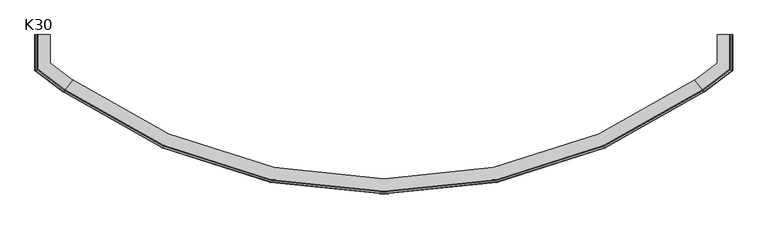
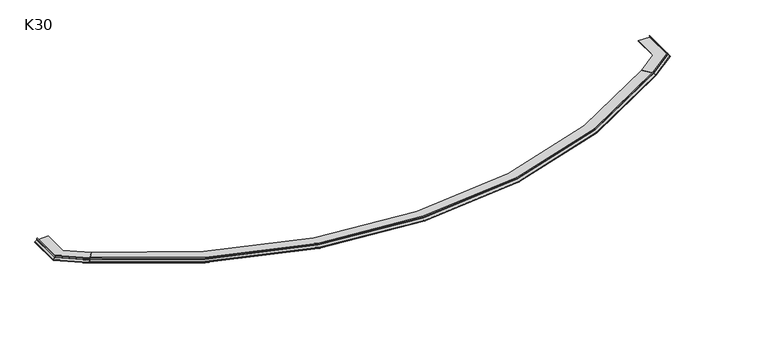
"""IFC4 building model written with IfcOpenShell, lengths in millimetres: proxy geometry, K30 Profil okapowy łukowy : K30."""

from ifc_helpers import new_model, si_unit, point, frame, origin, place, context, project, spatial, polyline, circle_curve, ellipse_curve, trimmed, source, transform, mapped, element, save
from ifc_brep_helpers import plane_surface, cylinder_surface, revolved_surface, advanced_brep


def k30_af906b5c(model_context):
    return source(origin(), model_context, "Body", "AdvancedBrep", [
        advanced_brep(
        [(4765.2922142, -77.6076501, -13.5016844), (4765.2922142, -77.6076501, -15.1970829), (4817.5264909, -146.7295213, -15.1970829), (4817.5264909, -146.7295213, -19.1975491), (4818.1293892, -147.5273394, -19.1975491), (4818.1293892, -147.5273394, -15.1975491), (4822.219781, -152.9401748, -15.1975491), (4830.3709696, -163.7266821, -25.3819245), (4830.8512669, -164.3622619, -26.9794046), (4830.8512669, -164.3622619, -30.413733), (4831.8761939, -165.7185527, -30.413733), (4831.8761939, -165.7185527, -26.6303216), (4831.1557479, -164.7651831, -24.2341015), (4822.4949207, -153.3042685, -13.4129661), (4822.2335872, -152.9584446, -12.5354797), (4822.2335872, -152.9584446, -2.7535764), (4820.545471, -150.7245522, 0.0), (4820.545471, -150.7245522, -1.79984), (4821.1438802, -151.51643, -2.7625682), (4821.1438802, -151.51643, -13.5016844), (4928.0147588, 249.8754071, -13.5016844), (5020.6533065, 250.0011167, -13.5016844), (5020.6533065, 250.0011167, -2.7625682), (5019.6607532, 249.9997698, -1.79984), (5019.6607532, 249.9997698, 0.0), (5022.4603658, 250.0035689, -2.7535764), (5022.4607526, 250.0035694, -12.5354797), (5022.8942143, 250.0041576, -13.4129661), (5037.2595236, 250.0236512, -24.2341015), (5038.4544936, 250.0252728, -26.6303216), (5038.4544936, 250.0252728, -30.413733), (5036.7544952, 250.0229659, -30.413733), (5036.7544952, 250.0229659, -26.9794046), (5035.9578485, 250.0218848, -25.3819245), (5022.4378529, 250.0035383, -15.1975491), (5015.6533111, 249.9943318, -15.1975491), (5015.6533111, 249.9943318, -19.1975491), (5014.6533121, 249.9929748, -19.1975491), (5014.6533121, 249.9929748, -15.1970829), (4928.0147588, 249.8754071, -15.1970829), (5020.9932254, -0.493522, -13.5016844), (4928.2920011, 45.5686445, -13.5016844), (5020.9932254, -0.493522, -2.7625682), (5020.0000006, 0.0, -1.79984), (5020.0000006, 0.0, 0.0), (5022.8016611, -1.39192, -2.7535764), (5022.8018944, -1.3922286, -12.5354797), (5023.2356493, -1.6077565, -13.4129661), (5037.6106778, -8.7505419, -24.2341015), (5038.8064563, -9.3447104, -26.6303216), (5038.8064563, -9.3447104, -30.413733), (5037.1053077, -8.4994293, -30.413733), (5037.1053077, -8.4994293, -26.9794046), (5036.308122, -8.103317, -25.3819245), (5022.7789792, -1.3808424, -15.1975491), (5015.9898472, 1.9925988, -15.1975491), (5015.9898472, 1.9925988, -19.1975491), (5014.9891715, 2.489823, -19.1975491), (5014.9891715, 2.489823, -15.1970829), (4928.2920011, 45.5686445, -15.1970829)],
        [
            (0, 1),
            (1, 2),
            (2, 3),
            (3, 4),
            (4, 5),
            (5, 6),
            (6, 7),
            (7, 8, circle_curve(frame((4829.6454705, -162.7666256, -26.9794046), z_axis=(0.7978181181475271, 0.6028982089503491, 0.0), x_axis=(0.3627495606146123, -0.4800282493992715, 0.7987400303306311)), 2.0)),
            (8, 9),
            (9, 10, circle_curve(frame((4831.3637304, -165.0404073, -30.413733), z_axis=(-0.7978181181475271, -0.6028982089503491, 0.0), x_axis=(-0.6028982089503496, 0.7978181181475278, -1.0699937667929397e-12)), 0.85)),
            (10, 11),
            (11, 12, circle_curve(frame((4830.0674993, -163.3250983, -26.6303216), z_axis=(-0.7978181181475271, -0.6028982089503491, 0.0), x_axis=(0.6028982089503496, -0.7978181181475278, 0.0)), 3.0)),
            (12, 13),
            (13, 14, circle_curve(frame((4822.8896988, -153.8266802, -12.5437023), z_axis=(0.7978181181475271, 0.6028982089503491, 0.0), x_axis=(-0.3627495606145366, 0.4800282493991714, -0.7987400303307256)), 1.0882937)),
            (14, 15),
            (15, 16, circle_curve(frame((4820.5729349, -150.7608953, -2.7536853), z_axis=(-0.7978181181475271, -0.6028982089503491, 0.0), x_axis=(0.6028982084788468, -0.7978181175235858, 3.954897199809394e-05)), 2.754062)),
            (16, 17),
            (17, 18, circle_curve(frame((4820.5484441, -150.7284866, -2.7877721), z_axis=(0.7978181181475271, 0.6028982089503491, 0.0), x_axis=(-0.0030094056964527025, 0.003982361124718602, 0.9999875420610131)), 0.9879444)),
            (18, 19),
            (19, 0),
            (20, 21),
            (21, 22),
            (22, 23, circle_curve(frame((5019.6656846, 249.9997765, -2.7877721), z_axis=(0.00135698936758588, -0.9999990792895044, 0.0), x_axis=(-0.004991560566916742, -6.773500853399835e-06, 0.9999875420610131)), 0.9879444)),
            (23, 24),
            (24, 25, circle_curve(frame((5019.7063062, 249.9998316, -2.7536853), z_axis=(-0.0013569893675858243, 0.9999990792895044, 0.0), x_axis=(0.9999990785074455, 0.001356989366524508, 3.954897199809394e-05)), 2.754062)),
            (25, 26),
            (26, 27, circle_curve(frame((5023.5490142, 250.0050462, -12.5437023), z_axis=(0.0013569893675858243, -0.9999990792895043, 0.0), x_axis=(-0.601675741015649, -0.0008164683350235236, -0.7987400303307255)), 1.0882937)),
            (27, 28),
            (28, 29, circle_curve(frame((5035.4544964, 250.0212018, -26.6303216), z_axis=(-0.001356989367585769, 0.9999990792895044, 0.0), x_axis=(0.9999990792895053, 0.0013569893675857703, 0.0)), 3.0)),
            (29, 30),
            (30, 31, circle_curve(frame((5037.6044944, 250.0241193, -30.413733), z_axis=(-0.001356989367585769, 0.9999990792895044, 0.0), x_axis=(-0.9999990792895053, -0.0013569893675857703, -1.0699937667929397e-12)), 0.85)),
            (31, 32),
            (32, 33, circle_curve(frame((5034.754497, 250.0202519, -26.9794046), z_axis=(0.0013569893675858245, -0.9999990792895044, 0.0), x_axis=(0.6016757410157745, 0.0008164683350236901, 0.798740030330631)), 2.0)),
            (33, 34),
            (34, 35),
            (35, 36),
            (36, 37),
            (37, 38),
            (38, 39),
            (39, 20),
            (19, 40),
            (40, 21),
            (20, 41),
            (41, 0),
            (18, 42),
            (42, 40),
            (17, 43),
            (43, 42, ellipse_curve(frame((5020.0049353, -0.002452, -2.7877721), z_axis=(0.44498298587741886, 0.8955390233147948, 0.0), x_axis=(0.8955390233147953, -0.4449829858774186, 0.0)), 1.1039295, 0.9879444)),
            (16, 44),
            (44, 43),
            (15, 45),
            (45, 44, ellipse_curve(frame((5020.0455844, -0.0226501, -2.7536853), z_axis=(-0.4449829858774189, -0.8955390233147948, 0.0), x_axis=(-0.8955390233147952, 0.4449829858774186, 0.0)), 3.07739, 2.754062)),
            (14, 46),
            (46, 45),
            (13, 47),
            (47, 46, ellipse_curve(frame((5023.8908923, -1.9333391, -12.5437023), z_axis=(0.4449829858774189, 0.8955390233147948, 0.0), x_axis=(0.8955390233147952, -0.4449829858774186, 0.0)), 1.2160598, 1.0882937)),
            (12, 48),
            (48, 47),
            (11, 49),
            (49, 48, ellipse_curve(frame((5035.8044293, -7.8530379, -26.6303216), z_axis=(-0.4449829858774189, -0.8955390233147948, 0.0), x_axis=(-0.8955390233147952, 0.4449829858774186, 0.0)), 3.3522012, 3.0)),
            (10, 50),
            (50, 49),
            (9, 51),
            (51, 50, ellipse_curve(frame((5037.955882, -8.9220699, -30.413733), z_axis=(-0.4449829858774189, -0.8955390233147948, 0.0), x_axis=(-0.8955390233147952, 0.4449829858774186, 0.0)), 0.9497903, 0.85)),
            (8, 52),
            (52, 51),
            (7, 53),
            (53, 52, ellipse_curve(frame((5035.1039564, -7.504981, -26.9794046), z_axis=(0.4449829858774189, 0.8955390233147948, 0.0), x_axis=(0.8955390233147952, -0.4449829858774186, 0.0)), 2.2348008, 2.0)),
            (6, 54),
            (54, 53),
            (5, 55),
            (55, 35),
            (34, 54),
            (4, 56),
            (56, 55),
            (3, 57),
            (57, 37),
            (36, 56),
            (2, 58),
            (58, 57),
            (1, 59),
            (59, 39),
            (38, 58),
            (41, 59),
            (42, 22),
            (43, 23),
            (44, 24),
            (45, 25),
            (46, 26),
            (47, 27),
            (48, 28),
            (49, 29),
            (50, 30),
            (51, 31),
            (52, 32),
            (53, 33),
        ],
        [
            plane_surface(frame((4820.545471, -150.7245522, 0.0), z_axis=(-0.7978181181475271, -0.6028982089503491, 0.0), x_axis=(0.0, 0.0, 1.0))),
            plane_surface(frame((5019.6607532, 249.9997698, 0.0), z_axis=(-0.001356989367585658, 0.9999990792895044, 0.0), x_axis=(0.0, 0.0, 1.0))),
            plane_surface(frame((4765.2922142, -77.6076501, -13.5016844), z_axis=(0.0, 0.0, 1.0), x_axis=(0.7978181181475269, 0.6028982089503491, 0.0))),
            plane_surface(frame((4821.1438802, -151.51643, -13.5016844), z_axis=(-0.6028982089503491, 0.7978181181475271, 0.0), x_axis=(0.7978181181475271, 0.6028982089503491, 0.0))),
            revolved_surface(polyline([(5020.394944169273, 0.2984525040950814, -1.799840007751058), (4820.5454709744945, -150.72455224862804, -1.799840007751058)]), (4820.5484441, -150.7284866, -2.7877721), (0.7978181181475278, 0.6028982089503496, 0.0)),
            plane_surface(frame((4820.545471, -150.7245522, -1.79984), z_axis=(-0.6028982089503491, 0.7978181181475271, 0.0), x_axis=(0.7978181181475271, 0.6028982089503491, 0.0))),
            cylinder_surface(frame((4820.5729349, -150.7608953, -2.7536853), z_axis=(-0.797818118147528, -0.6028982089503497, 0.0), x_axis=(0.6028982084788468, -0.7978181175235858, 3.954897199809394e-05)), 2.754062),
            plane_surface(frame((4822.2335872, -152.9584446, -2.7535764), z_axis=(0.6028982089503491, -0.7978181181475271, 0.0), x_axis=(0.7978181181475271, 0.6028982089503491, 0.0))),
            revolved_surface(polyline([(5023.929012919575, -1.0837928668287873, -13.412966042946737), (4822.494920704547, -153.30426850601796, -13.412966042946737)]), (4822.8896988, -153.8266802, -12.5437023), (0.797818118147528, 0.6028982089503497, 0.0)),
            plane_surface(frame((4822.4949207, -153.3042685, -13.4129661), z_axis=(0.36274956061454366, -0.48002824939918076, 0.7987400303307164), x_axis=(0.7978181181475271, 0.6028982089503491, 0.0))),
            cylinder_surface(frame((4830.0674993, -163.3250983, -26.6303216), z_axis=(-0.7978181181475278, -0.6028982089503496, 0.0), x_axis=(0.6028982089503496, -0.7978181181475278, 0.0)), 3.0),
            plane_surface(frame((4831.8761939, -165.7185527, -26.6303216), z_axis=(0.6028982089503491, -0.7978181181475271, 0.0), x_axis=(0.7978181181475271, 0.6028982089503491, 0.0))),
            cylinder_surface(frame((4831.3637304, -165.0404073, -30.413733), z_axis=(-0.7978181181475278, -0.6028982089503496, 0.0), x_axis=(-0.6028982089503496, 0.7978181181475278, -1.0699937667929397e-12)), 0.85),
            plane_surface(frame((4830.8512669, -164.3622619, -30.413733), z_axis=(-0.6028982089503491, 0.7978181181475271, 0.0), x_axis=(0.7978181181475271, 0.6028982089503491, 0.0))),
            revolved_surface(polyline([(5036.625010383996, -7.863849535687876, -25.381924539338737), (4830.370969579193, -163.72668213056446, -25.381924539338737)]), (4829.6454705, -162.7666256, -26.9794046), (0.797818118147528, 0.6028982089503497, 0.0)),
            plane_surface(frame((4830.3709696, -163.7266821, -25.3819245), z_axis=(-0.3627495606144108, 0.4800282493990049, -0.7987400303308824), x_axis=(0.7978181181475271, 0.6028982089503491, 0.0))),
            plane_surface(frame((4822.219781, -152.9401748, -15.1975491), z_axis=(0.0, 0.0, -1.0000000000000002), x_axis=(0.7978181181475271, 0.6028982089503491, 0.0))),
            plane_surface(frame((4818.1293892, -147.5273394, -15.1975491), z_axis=(0.6028982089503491, -0.7978181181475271, 0.0), x_axis=(0.7978181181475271, 0.6028982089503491, 0.0))),
            plane_surface(frame((4818.1293892, -147.5273394, -19.1975491), z_axis=(0.0, 0.0, -1.0000000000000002), x_axis=(0.7978181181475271, 0.6028982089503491, 0.0))),
            plane_surface(frame((4817.5264909, -146.7295213, -19.1975491), z_axis=(-0.6028982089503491, 0.7978181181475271, 0.0), x_axis=(0.7978181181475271, 0.6028982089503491, 0.0))),
            plane_surface(frame((4817.5264909, -146.7295213, -15.1970829), z_axis=(0.0, 0.0, -1.0000000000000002), x_axis=(0.7978181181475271, 0.6028982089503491, 0.0))),
            plane_surface(frame((4765.2922142, -77.6076501, -15.1970829), z_axis=(-0.6028982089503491, 0.7978181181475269, 0.0), x_axis=(0.7978181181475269, 0.6028982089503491, 0.0))),
            plane_surface(frame((5020.9932254, -0.493522, -13.5016844), z_axis=(-0.9999990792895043, -0.0013569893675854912, 0.0), x_axis=(-0.0013569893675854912, 0.9999990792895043, 0.0))),
            revolved_surface(polyline([(5019.660753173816, 249.99976981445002, -1.799840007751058), (5020.000672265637, -0.49502916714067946, -1.799840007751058)]), (5020.0049319, 6.7e-06, -2.7877721), (-0.0013569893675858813, 0.9999990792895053, 0.0)),
            plane_surface(frame((5020.0000006, 0.0, -1.79984), z_axis=(-0.9999990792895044, -0.0013569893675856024, 0.0), x_axis=(-0.0013569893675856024, 0.9999990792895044, 0.0))),
            cylinder_surface(frame((5020.0455536, 6.18e-05, -2.7536853), z_axis=(0.0013569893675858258, -0.9999990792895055, 0.0), x_axis=(0.9999990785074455, 0.001356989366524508, 3.954897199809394e-05)), 2.754062),
            plane_surface(frame((5022.8018944, -1.3922286, -2.7535764), z_axis=(0.9999990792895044, 0.0013569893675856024, 0.0), x_axis=(-0.0013569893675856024, 0.9999990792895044, 0.0))),
            revolved_surface(polyline([(5022.894214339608, 250.00415764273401, -13.412966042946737), (5023.236828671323, -2.4768303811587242, -13.412966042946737)]), (5023.8882616, 0.0052763, -12.5437023), (-0.0013569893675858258, 0.9999990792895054, 0.0)),
            plane_surface(frame((5023.2356493, -1.6077565, -13.4129661), z_axis=(0.6016757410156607, 0.000816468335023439, 0.7987400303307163), x_axis=(-0.001356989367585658, 0.9999990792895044, 0.0))),
            cylinder_surface(frame((5035.7937437, 0.021432, -26.6303216), z_axis=(0.0013569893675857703, -0.9999990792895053, 0.0), x_axis=(0.9999990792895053, 0.0013569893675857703, 0.0)), 3.0),
            plane_surface(frame((5038.8064563, -9.3447104, -26.6303216), z_axis=(0.9999990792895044, 0.0013569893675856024, 0.0), x_axis=(-0.0013569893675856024, 0.9999990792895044, 0.0))),
            cylinder_surface(frame((5037.9437418, 0.0243495, -30.413733), z_axis=(0.0013569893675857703, -0.9999990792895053, 0.0), x_axis=(-0.9999990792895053, -0.0013569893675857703, -1.0699937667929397e-12)), 0.85),
            plane_surface(frame((5037.1053077, -8.4994293, -30.413733), z_axis=(-0.9999990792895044, -0.0013569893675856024, 0.0), x_axis=(-0.0013569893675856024, 0.9999990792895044, 0.0))),
            revolved_surface(polyline([(5035.957848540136, 250.021884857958, -25.381924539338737), (5036.308661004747, -8.50051037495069, -25.381924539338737)]), (5035.0937444, 0.0204821, -26.9794046), (-0.0013569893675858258, 0.9999990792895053, 0.0)),
            plane_surface(frame((5036.308122, -8.103317, -25.3819245), z_axis=(-0.6016757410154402, -0.0008164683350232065, -0.7987400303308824), x_axis=(-0.001356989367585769, 0.9999990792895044, 0.0))),
            plane_surface(frame((5015.9898472, 1.9925988, -15.1975491), z_axis=(0.9999990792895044, 0.001356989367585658, 0.0), x_axis=(-0.001356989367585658, 0.9999990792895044, 0.0))),
            plane_surface(frame((5014.9891715, 2.489823, -19.1975491), z_axis=(-0.9999990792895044, -0.001356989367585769, 0.0), x_axis=(-0.001356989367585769, 0.9999990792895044, 0.0))),
            plane_surface(frame((4928.2920011, 45.5686445, -15.1970829), z_axis=(-0.9999990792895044, -0.001356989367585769, 0.0), x_axis=(-0.001356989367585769, 0.9999990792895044, 0.0))),
        ],
        [
            (0, [[1, 2, 3, 4, 5, 6, 7, 8, 9, 10, 11, 12, 13, 14, 15, 16, 17, 18, 19, 20]]),
            (1, [[21, 22, 23, 24, 25, 26, 27, 28, 29, 30, 31, 32, 33, 34, 35, 36, 37, 38, 39, 40]]),
            (2, [[41, 42, -21, 43, 44, -20]]),
            (3, [[45, 46, -41, -19]]),
            (4, [[47, 48, -45, -18]]),
            (5, [[49, 50, -47, -17]]),
            (6, [[51, 52, -49, -16]]),
            (7, [[53, 54, -51, -15]]),
            (8, [[55, 56, -53, -14]]),
            (9, [[57, 58, -55, -13]]),
            (10, [[59, 60, -57, -12]]),
            (11, [[61, 62, -59, -11]]),
            (12, [[63, 64, -61, -10]]),
            (13, [[65, 66, -63, -9]]),
            (14, [[67, 68, -65, -8]]),
            (15, [[69, 70, -67, -7]]),
            (16, [[71, 72, -35, 73, -69, -6]]),
            (17, [[74, 75, -71, -5]]),
            (18, [[76, 77, -37, 78, -74, -4]]),
            (19, [[79, 80, -76, -3]]),
            (20, [[81, 82, -39, 83, -79, -2]]),
            (21, [[-44, 84, -81, -1]]),
            (22, [[85, -22, -42, -46]]),
            (23, [[86, -23, -85, -48]]),
            (24, [[87, -24, -86, -50]]),
            (25, [[88, -25, -87, -52]]),
            (26, [[89, -26, -88, -54]]),
            (27, [[90, -27, -89, -56]]),
            (28, [[91, -28, -90, -58]]),
            (29, [[92, -29, -91, -60]]),
            (30, [[93, -30, -92, -62]]),
            (31, [[94, -31, -93, -64]]),
            (32, [[95, -32, -94, -66]]),
            (33, [[96, -33, -95, -68]]),
            (34, [[-73, -34, -96, -70]]),
            (35, [[-78, -36, -72, -75]]),
            (36, [[-83, -38, -77, -80]]),
            (37, [[-43, -40, -82, -84]]),
        ],
    ),
        advanced_brep(
        [(254.7078479, -77.6076966, -13.5016844), (198.8561819, -151.5164765, -13.5016844), (198.8561819, -151.5164765, -2.7625682), (199.4545911, -150.7245987, -1.79984), (199.4545911, -150.7245987, 0.0), (197.7667081, -152.9581824, -2.7535764), (197.7664749, -152.9584911, -12.5354797), (197.5051414, -153.304315, -13.4129661), (188.8443141, -164.7652296, -24.2341015), (188.1238682, -165.7185992, -26.6303216), (188.1238682, -165.7185992, -30.413733), (189.1487952, -164.3623084, -30.413733), (189.1487952, -164.3623084, -26.9794046), (189.6290924, -163.7267286, -25.3819245), (197.7802811, -152.9402213, -15.1975491), (201.8706729, -147.5273859, -15.1975491), (201.8706729, -147.5273859, -19.1975491), (202.4735711, -146.7295678, -19.1975491), (202.4735711, -146.7295678, -15.1970829), (254.7078479, -77.6076966, -15.1970829), (91.5490486, 250.0355244, -13.5016844), (91.5490486, 250.0355244, -15.1970829), (4.910422, 250.0018792, -15.1970829), (4.910422, 250.0018792, -19.1975491), (3.9104221, 250.0014909, -19.1975491), (3.9104221, 250.0014909, -15.1975491), (-2.8741254, 249.9988562, -15.1975491), (-16.3941324, 249.9936058, -25.3819245), (-17.1907798, 249.9932965, -26.9794046), (-17.1907798, 249.9932965, -30.413733), (-18.8907796, 249.9926363, -30.413733), (-18.8907796, 249.9926363, -26.6303216), (-17.6958086, 249.9931003, -24.2341015), (-3.3304872, 249.998679, -13.4129661), (-2.8970251, 249.9988473, -12.5354797), (-2.8970251, 249.9988473, -2.7535764), (-0.0970233, 249.9999346, 0.0), (-0.0970233, 249.9999346, -1.79984), (-1.0895775, 249.9995492, -2.7625682), (-1.0895775, 249.9995492, -13.5016844), (91.6284278, 45.6287755, -13.5016844), (-0.9923009, -0.4942202, -13.5016844), (-0.9923009, -0.4942202, -2.7625682), (6.15e-05, -4.65e-05, -1.79984), (6.15e-05, -4.65e-05, 0.0), (-2.7990125, -1.3939211, -2.7535764), (-2.7993993, -1.3941137, -12.5354797), (-3.2327776, -1.6099262, -13.4129661), (-17.5953237, -8.7621443, -24.2341015), (-18.7900639, -9.3570974, -26.6303216), (-18.7900639, -9.3570974, -30.413733), (-17.0903925, -8.5107001, -30.413733), (-17.0903925, -8.5107001, -26.9794046), (-16.293899, -8.1140646, -25.3819245), (-2.776504, -1.3827124, -15.1975491), (4.0067328, 1.9951837, -15.1975491), (4.0067328, 1.9951837, -19.1975491), (5.0065395, 2.4930645, -19.1975491), (5.0065395, 2.4930645, -15.1970829), (91.6284278, 45.6287755, -15.1970829)],
        [
            (0, 1),
            (1, 2),
            (2, 3, circle_curve(frame((199.4516179, -150.7285331, -2.7877721), z_axis=(-0.7978181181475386, 0.6028982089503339, 0.0), x_axis=(0.0030094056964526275, 0.003982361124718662, 0.9999875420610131)), 0.9879444)),
            (3, 4),
            (4, 5, circle_curve(frame((199.4271272, -150.7609418, -2.7536853), z_axis=(0.7978181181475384, -0.6028982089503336, 0.0), x_axis=(-0.6028982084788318, -0.7978181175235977, 3.954897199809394e-05)), 2.754062)),
            (5, 6),
            (6, 7, circle_curve(frame((197.1103633, -153.8267267, -12.5437023), z_axis=(-0.7978181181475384, 0.6028982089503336, 0.0), x_axis=(0.3627495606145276, 0.48002824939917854, -0.7987400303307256)), 1.0882937)),
            (7, 8),
            (8, 9, circle_curve(frame((189.9325628, -163.3251448, -26.6303216), z_axis=(0.7978181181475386, -0.6028982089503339, 0.0), x_axis=(-0.6028982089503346, -0.7978181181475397, 0.0)), 3.0)),
            (9, 10),
            (10, 11, circle_curve(frame((188.6363317, -165.0404538, -30.413733), z_axis=(0.7978181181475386, -0.6028982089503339, 0.0), x_axis=(0.6028982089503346, 0.7978181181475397, -1.0699937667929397e-12)), 0.85)),
            (11, 12),
            (12, 13, circle_curve(frame((190.3545916, -162.7666721, -26.9794046), z_axis=(-0.7978181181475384, 0.6028982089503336, 0.0), x_axis=(-0.36274956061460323, -0.48002824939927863, 0.7987400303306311)), 2.0)),
            (13, 14),
            (14, 15),
            (15, 16),
            (16, 17),
            (17, 18),
            (18, 19),
            (19, 0),
            (20, 21),
            (21, 22),
            (22, 23),
            (23, 24),
            (24, 25),
            (25, 26),
            (26, 27),
            (27, 28, circle_curve(frame((-15.1907799, 249.9940731, -26.9794046), z_axis=(0.00038833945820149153, -0.9999999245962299, 0.0), x_axis=(-0.6016762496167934, -0.00023365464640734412, 0.7987400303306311)), 2.0)),
            (28, 29),
            (29, 30, circle_curve(frame((-18.0407797, 249.9929664, -30.413733), z_axis=(-0.00038833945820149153, 0.9999999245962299, 0.0), x_axis=(0.9999999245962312, 0.00038833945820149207, -1.0699937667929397e-12)), 0.85)),
            (30, 31),
            (31, 32, circle_curve(frame((-15.8907799, 249.9938013, -26.6303216), z_axis=(-0.00038833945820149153, 0.9999999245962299, 0.0), x_axis=(-0.9999999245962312, -0.00038833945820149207, 0.0)), 3.0)),
            (32, 33),
            (33, 34, circle_curve(frame((-3.9852876, 249.9984247, -12.5437023), z_axis=(0.0003883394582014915, -0.9999999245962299, 0.0), x_axis=(0.601676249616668, 0.00023365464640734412, -0.7987400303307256)), 1.0882937)),
            (34, 35),
            (35, 36, circle_curve(frame((-0.1425764, 249.999917, -2.7536853), z_axis=(-0.00038833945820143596, 0.9999999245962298, 0.0), x_axis=(-0.9999999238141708, -0.00038833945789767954, 3.954897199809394e-05)), 2.754062)),
            (36, 37),
            (37, 38, circle_curve(frame((-0.1019547, 249.9999327, -2.7877721), z_axis=(0.00038833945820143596, -0.9999999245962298, 0.0), x_axis=(0.004991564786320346, 1.9384217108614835e-06, 0.9999875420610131)), 0.9879444)),
            (38, 39),
            (39, 20),
            (0, 40),
            (40, 20),
            (39, 41),
            (41, 1),
            (41, 42),
            (42, 2),
            (42, 43, ellipse_curve(frame((-0.0048689, -0.0025017, -2.7877721), z_axis=(-0.4457643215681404, 0.8951503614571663, 0.0), x_axis=(-0.8951503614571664, -0.44576432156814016, 0.0)), 1.1034498, 0.9879444)),
            (43, 3),
            (43, 44),
            (44, 4),
            (44, 45, ellipse_curve(frame((-0.0454827, -0.0227265, -2.7536853), z_axis=(0.4457643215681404, -0.8951503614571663, 0.0), x_axis=(0.8951503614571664, 0.44576432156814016, 0.0)), 3.0760528, 2.754062)),
            (45, 5),
            (45, 46),
            (46, 6),
            (46, 47, ellipse_curve(frame((-3.8874516, -1.9359387, -12.5437023), z_axis=(-0.4457643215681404, 0.8951503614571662, 0.0), x_axis=(-0.8951503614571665, -0.4457643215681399, 0.0)), 1.2155314, 1.0882937)),
            (47, 7),
            (47, 48),
            (48, 8),
            (48, 49, ellipse_curve(frame((-15.7906437, -7.8634551, -26.6303216), z_axis=(0.44576432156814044, -0.8951503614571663, 0.0), x_axis=(0.8951503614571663, 0.4457643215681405, 0.0)), 3.3507445, 3.0)),
            (49, 9),
            (49, 50),
            (50, 10),
            (50, 51, ellipse_curve(frame((-17.9402282, -8.9338988, -30.413733), z_axis=(0.44576432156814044, -0.8951503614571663, 0.0), x_axis=(0.8951503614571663, 0.4457643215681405, 0.0)), 0.9493776, 0.85)),
            (51, 11),
            (51, 52),
            (52, 12),
            (52, 53, ellipse_curve(frame((-15.090779, -7.5149385, -26.9794046), z_axis=(-0.4457643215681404, 0.8951503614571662, 0.0), x_axis=(-0.8951503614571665, -0.4457643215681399, 0.0)), 2.2338297, 2.0)),
            (53, 13),
            (53, 54),
            (54, 14),
            (54, 26),
            (25, 55),
            (55, 15),
            (55, 56),
            (56, 16),
            (56, 24),
            (23, 57),
            (57, 17),
            (57, 58),
            (58, 18),
            (58, 22),
            (21, 59),
            (59, 19),
            (59, 40),
            (38, 42),
            (37, 43),
            (36, 44),
            (35, 45),
            (34, 46),
            (33, 47),
            (32, 48),
            (31, 49),
            (30, 50),
            (29, 51),
            (28, 52),
            (27, 53),
        ],
        [
            plane_surface(frame((199.4545911, -150.7245987, 0.0), z_axis=(0.7978181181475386, -0.6028982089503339, 0.0), x_axis=(0.0, 0.0, 1.0))),
            plane_surface(frame((-0.0970233, 249.9999346, 0.0), z_axis=(-0.00038833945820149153, 0.9999999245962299, 0.0), x_axis=(0.0, 0.0, 1.0))),
            plane_surface(frame((254.7078479, -77.6076966, -13.5016844), z_axis=(0.0, 0.0, 1.0), x_axis=(-0.7978181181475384, 0.6028982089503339, 0.0))),
            plane_surface(frame((198.8561819, -151.5164765, -13.5016844), z_axis=(0.6028982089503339, 0.7978181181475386, 0.0), x_axis=(-0.7978181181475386, 0.6028982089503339, 0.0))),
            revolved_surface(polyline([(-0.3940193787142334, 0.2977540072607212, -1.799840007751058), (199.454591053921, -150.72459877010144, -1.799840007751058)]), (199.4516179, -150.7285331, -2.7877721), (-0.7978181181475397, 0.6028982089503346, 0.0)),
            plane_surface(frame((199.4545911, -150.7245987, -1.79984), z_axis=(0.6028982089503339, 0.7978181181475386, 0.0), x_axis=(-0.7978181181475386, 0.6028982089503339, 0.0))),
            cylinder_surface(frame((199.4271272, -150.7609418, -2.7536853), z_axis=(0.7978181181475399, -0.6028982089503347, 0.0), x_axis=(-0.6028982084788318, -0.7978181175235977, 3.954897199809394e-05)), 2.754062),
            plane_surface(frame((197.7664749, -152.9584911, -2.7535764), z_axis=(-0.6028982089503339, -0.7978181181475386, 0.0), x_axis=(-0.7978181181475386, 0.6028982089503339, 0.0))),
            revolved_surface(polyline([(-3.924626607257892, -1.0871071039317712, -13.412966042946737), (197.50514139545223, -153.30431500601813, -13.412966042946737)]), (197.1103633, -153.8267267, -12.5437023), (-0.7978181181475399, 0.6028982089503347, 0.0)),
            plane_surface(frame((197.5051414, -153.304315, -13.4129661), z_axis=(-0.36274956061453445, -0.48002824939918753, 0.7987400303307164), x_axis=(-0.7978181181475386, 0.6028982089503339, 0.0))),
            cylinder_surface(frame((189.9325628, -163.3251448, -26.6303216), z_axis=(0.7978181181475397, -0.6028982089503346, 0.0), x_axis=(-0.6028982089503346, -0.7978181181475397, 0.0)), 3.0),
            plane_surface(frame((188.1238682, -165.7185992, -26.6303216), z_axis=(-0.6028982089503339, -0.7978181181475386, 0.0), x_axis=(-0.7978181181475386, 0.6028982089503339, 0.0))),
            cylinder_surface(frame((188.6363317, -165.0404538, -30.413733), z_axis=(0.7978181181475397, -0.6028982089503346, 0.0), x_axis=(0.6028982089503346, 0.7978181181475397, -1.0699937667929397e-12)), 0.85),
            plane_surface(frame((189.1487952, -164.3623084, -30.413733), z_axis=(0.6028982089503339, 0.7978181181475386, 0.0), x_axis=(-0.7978181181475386, 0.6028982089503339, 0.0))),
            revolved_surface(polyline([(-16.610095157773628, -7.87512030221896, -25.381924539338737), (189.62909252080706, -163.7267286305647, -25.381924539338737)]), (190.3545916, -162.7666721, -26.9794046), (-0.7978181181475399, 0.6028982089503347, 0.0)),
            plane_surface(frame((189.6290924, -163.7267286, -25.3819245), z_axis=(0.3627495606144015, 0.4800282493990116, -0.7987400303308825), x_axis=(-0.7978181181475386, 0.6028982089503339, 0.0))),
            plane_surface(frame((197.7802811, -152.9402213, -15.1975491), z_axis=(0.0, 0.0, -1.0000000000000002), x_axis=(-0.7978181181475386, 0.6028982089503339, 0.0))),
            plane_surface(frame((201.8706729, -147.5273859, -15.1975491), z_axis=(-0.6028982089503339, -0.7978181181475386, 0.0), x_axis=(-0.7978181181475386, 0.6028982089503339, 0.0))),
            plane_surface(frame((201.8706729, -147.5273859, -19.1975491), z_axis=(0.0, 0.0, -1.0000000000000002), x_axis=(-0.7978181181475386, 0.6028982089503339, 0.0))),
            plane_surface(frame((202.4735711, -146.7295678, -19.1975491), z_axis=(0.6028982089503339, 0.7978181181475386, 0.0), x_axis=(-0.7978181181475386, 0.6028982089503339, 0.0))),
            plane_surface(frame((202.4735711, -146.7295678, -15.1970829), z_axis=(0.0, 0.0, -1.0000000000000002), x_axis=(-0.7978181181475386, 0.6028982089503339, 0.0))),
            plane_surface(frame((254.7078479, -77.6076966, -15.1970829), z_axis=(0.6028982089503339, 0.7978181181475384, 0.0), x_axis=(-0.7978181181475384, 0.6028982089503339, 0.0))),
            plane_surface(frame((-0.9923009, -0.4942202, -13.5016844), z_axis=(0.9999999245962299, 0.00038833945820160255, 0.0), x_axis=(-0.00038833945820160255, 0.9999999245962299, 0.0))),
            revolved_surface(polyline([(-0.09702337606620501, 249.99993464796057, -1.799840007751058), (0.0002533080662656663, -0.4939946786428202, -1.799840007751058)]), (-0.0048699, -4.84e-05, -2.7877721), (-0.00038833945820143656, 0.9999999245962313, 0.0)),
            plane_surface(frame((6.15e-05, -4.65e-05, -1.79984), z_axis=(0.9999999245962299, 0.00038833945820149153, 0.0), x_axis=(-0.00038833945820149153, 0.9999999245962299, 0.0))),
            cylinder_surface(frame((-0.0454915, -6.42e-05, -2.7536853), z_axis=(0.00038833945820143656, -0.9999999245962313, 0.0), x_axis=(-0.9999999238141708, -0.00038833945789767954, 3.954897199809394e-05)), 2.754062),
            plane_surface(frame((-2.7993993, -1.3941137, -2.7535764), z_axis=(-0.9999999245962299, -0.00038833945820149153, 0.0), x_axis=(-0.00038833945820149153, 0.9999999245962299, 0.0))),
            revolved_surface(polyline([(-3.330487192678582, 249.99867900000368, -13.412966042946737), (-3.2324408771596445, -2.477102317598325, -13.412966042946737)]), (-3.8882028, -0.0015565, -12.5437023), (-0.00038833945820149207, 0.9999999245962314, 0.0)),
            plane_surface(frame((-3.2327776, -1.6099262, -13.4129661), z_axis=(-0.6016762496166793, -0.00023365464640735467, 0.7987400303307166), x_axis=(-0.00038833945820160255, 0.9999999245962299, 0.0))),
            cylinder_surface(frame((-15.793695, -0.0061798, -26.6303216), z_axis=(0.00038833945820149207, -0.9999999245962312, 0.0), x_axis=(-0.9999999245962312, -0.00038833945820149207, 0.0)), 3.0),
            plane_surface(frame((-18.7900639, -9.3570974, -26.6303216), z_axis=(-0.9999999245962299, -0.00038833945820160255, 0.0), x_axis=(-0.00038833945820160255, 0.9999999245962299, 0.0))),
            cylinder_surface(frame((-17.9436948, -0.0070148, -30.413733), z_axis=(0.00038833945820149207, -0.9999999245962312, 0.0), x_axis=(0.9999999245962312, 0.00038833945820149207, -1.0699937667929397e-12)), 0.85),
            plane_surface(frame((-17.0903925, -8.5107001, -30.413733), z_axis=(0.9999999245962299, 0.0003883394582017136, 0.0), x_axis=(-0.0003883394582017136, 0.9999999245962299, 0.0))),
            revolved_surface(polyline([(-16.394132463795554, 249.99360586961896, -25.381924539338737), (-16.293745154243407, -8.510390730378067, -25.381924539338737)]), (-15.0936951, -0.005908, -26.9794046), (-0.00038833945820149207, 0.9999999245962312, 0.0)),
            plane_surface(frame((-16.293899, -8.1140646, -25.3819245), z_axis=(0.6016762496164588, 0.00023365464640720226, -0.7987400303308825), x_axis=(-0.00038833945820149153, 0.9999999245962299, 0.0))),
            plane_surface(frame((4.0067328, 1.9951837, -15.1975491), z_axis=(-0.9999999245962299, -0.00038833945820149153, 0.0), x_axis=(-0.00038833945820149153, 0.9999999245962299, 0.0))),
            plane_surface(frame((5.0065395, 2.4930645, -19.1975491), z_axis=(0.9999999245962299, 0.00038833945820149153, 0.0), x_axis=(-0.00038833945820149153, 0.9999999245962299, 0.0))),
            plane_surface(frame((91.6284278, 45.6287755, -15.1970829), z_axis=(0.9999999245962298, 0.00038833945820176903, 0.0), x_axis=(-0.00038833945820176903, 0.9999999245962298, 0.0))),
        ],
        [
            (0, [[1, 2, 3, 4, 5, 6, 7, 8, 9, 10, 11, 12, 13, 14, 15, 16, 17, 18, 19, 20]]),
            (1, [[21, 22, 23, 24, 25, 26, 27, 28, 29, 30, 31, 32, 33, 34, 35, 36, 37, 38, 39, 40]]),
            (2, [[-1, 41, 42, -40, 43, 44]]),
            (3, [[-2, -44, 45, 46]]),
            (4, [[-3, -46, 47, 48]]),
            (5, [[-4, -48, 49, 50]]),
            (6, [[-5, -50, 51, 52]]),
            (7, [[-6, -52, 53, 54]]),
            (8, [[-7, -54, 55, 56]]),
            (9, [[-8, -56, 57, 58]]),
            (10, [[-9, -58, 59, 60]]),
            (11, [[-10, -60, 61, 62]]),
            (12, [[-11, -62, 63, 64]]),
            (13, [[-12, -64, 65, 66]]),
            (14, [[-13, -66, 67, 68]]),
            (15, [[-14, -68, 69, 70]]),
            (16, [[-15, -70, 71, -26, 72, 73]]),
            (17, [[-16, -73, 74, 75]]),
            (18, [[-17, -75, 76, -24, 77, 78]]),
            (19, [[-18, -78, 79, 80]]),
            (20, [[-19, -80, 81, -22, 82, 83]]),
            (21, [[-20, -83, 84, -41]]),
            (22, [[-45, -43, -39, 85]]),
            (23, [[-47, -85, -38, 86]]),
            (24, [[-49, -86, -37, 87]]),
            (25, [[-51, -87, -36, 88]]),
            (26, [[-53, -88, -35, 89]]),
            (27, [[-55, -89, -34, 90]]),
            (28, [[-57, -90, -33, 91]]),
            (29, [[-59, -91, -32, 92]]),
            (30, [[-61, -92, -31, 93]]),
            (31, [[-63, -93, -30, 94]]),
            (32, [[-65, -94, -29, 95]]),
            (33, [[-67, -95, -28, 96]]),
            (34, [[-69, -96, -27, -71]]),
            (35, [[-74, -72, -25, -76]]),
            (36, [[-79, -77, -23, -81]]),
            (37, [[-84, -82, -21, -42]]),
        ],
    ),
        advanced_brep(
        [(252.4969432, -75.9742125, -13.5016844), (252.4969432, -75.9742125, -15.1970829), (202.4536301, -146.6984626, -15.1970829), (202.4536301, -146.6984626, -19.1975491), (201.8760204, -147.5147757, -19.1975491), (201.8760204, -147.5147757, -15.1975491), (197.9571998, -153.0530911, -15.1975491), (190.1479123, -164.0896506, -25.3819245), (189.687761, -164.7399643, -26.9794046), (189.687761, -164.7399643, -30.413733), (188.7058246, -166.1276965, -30.413733), (188.7058246, -166.1276965, -26.6303216), (189.3960515, -165.152226, -24.2341015), (197.6936008, -153.4256252, -13.4129661), (197.9439727, -153.0717844, -12.5354797), (197.9439727, -153.0717844, -2.7535764), (199.561281, -150.7861061, 0.0), (199.561281, -150.7861061, -1.79984), (198.987972, -151.5963412, -2.7625682), (198.987972, -151.5963412, -13.5016844), (4767.5030573, -75.9742125, -13.5016844), (4821.0120285, -151.5963412, -13.5016844), (4821.0120285, -151.5963412, -2.7625682), (4820.4387196, -150.7861061, -1.79984), (4820.4387196, -150.7861061, 0.0), (4822.0558044, -153.0714686, -2.7535764), (4822.0560278, -153.0717844, -12.5354797), (4822.3063998, -153.4256252, -13.4129661), (4830.6039491, -165.152226, -24.2341015), (4831.294176, -166.1276965, -26.6303216), (4831.294176, -166.1276965, -30.413733), (4830.3122395, -164.7399643, -30.413733), (4830.3122395, -164.7399643, -26.9794046), (4829.8520883, -164.0896506, -25.3819245), (4822.0428008, -153.0530911, -15.1975491), (4818.1239801, -147.5147757, -15.1975491), (4818.1239801, -147.5147757, -19.1975491), (4817.5463705, -146.6984626, -19.1975491), (4817.5463705, -146.6984626, -15.1970829), (4767.5030573, -75.9742125, -15.1970829)],
        [
            (0, 1),
            (1, 2),
            (2, 3),
            (3, 4),
            (4, 5),
            (5, 6),
            (6, 7),
            (7, 8, circle_curve(frame((190.8429804, -163.1073381, -26.9794046), z_axis=(0.8163130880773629, -0.5776096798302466, 0.0), x_axis=(-0.3475340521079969, -0.4911562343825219, 0.7987400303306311)), 2.0)),
            (8, 9),
            (9, 10, circle_curve(frame((189.1967928, -165.4338304, -30.413733), z_axis=(-0.8163130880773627, 0.5776096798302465, 0.0), x_axis=(0.5776096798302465, 0.8163130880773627, -1.0699937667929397e-12)), 0.85)),
            (10, 11),
            (11, 12, circle_curve(frame((190.4386536, -163.6787573, -26.6303216), z_axis=(-0.8163130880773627, 0.5776096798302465, 0.0), x_axis=(-0.5776096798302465, -0.8163130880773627, 0.0)), 3.0)),
            (12, 13),
            (13, 14, circle_curve(frame((197.3153817, -153.9601474, -12.5437023), z_axis=(0.8163130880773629, -0.5776096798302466, 0.0), x_axis=(0.3475340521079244, 0.4911562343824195, -0.7987400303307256)), 1.0882937)),
            (14, 15),
            (15, 16, circle_curve(frame((199.5349691, -150.8232917, -2.7536853), z_axis=(-0.8163130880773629, 0.5776096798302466, 0.0), x_axis=(-0.5776096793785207, -0.8163130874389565, 3.954897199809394e-05)), 2.754062)),
            (16, 17),
            (17, 18, circle_curve(frame((199.5584325, -150.7901317, -2.7877721), z_axis=(0.8163130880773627, -0.5776096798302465, 0.0), x_axis=(0.0028831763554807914, 0.004074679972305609, 0.9999875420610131)), 0.9879444)),
            (18, 19),
            (19, 0),
            (20, 21),
            (21, 22),
            (22, 23, circle_curve(frame((4820.441568, -150.7901317, -2.7877721), z_axis=(-0.8163130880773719, -0.5776096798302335, 0.0), x_axis=(-0.002883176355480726, 0.004074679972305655, 0.9999875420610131)), 0.9879444)),
            (23, 24),
            (24, 25, circle_curve(frame((4820.4650315, -150.8232917, -2.7536853), z_axis=(0.8163130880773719, 0.5776096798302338, 0.0), x_axis=(0.5776096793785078, -0.8163130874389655, 3.954897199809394e-05)), 2.754062)),
            (25, 26),
            (26, 27, circle_curve(frame((4822.6846189, -153.9601474, -12.5437023), z_axis=(-0.8163130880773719, -0.5776096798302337, 0.0), x_axis=(-0.34753405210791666, 0.49115623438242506, -0.7987400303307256)), 1.0882937)),
            (27, 28),
            (28, 29, circle_curve(frame((4829.5613469, -163.6787573, -26.6303216), z_axis=(0.8163130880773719, 0.5776096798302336, 0.0), x_axis=(0.5776096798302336, -0.8163130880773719, 0.0)), 3.0)),
            (29, 30),
            (30, 31, circle_curve(frame((4830.8032078, -165.4338304, -30.413733), z_axis=(0.8163130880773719, 0.5776096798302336, 0.0), x_axis=(-0.5776096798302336, 0.8163130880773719, -1.0699937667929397e-12)), 0.85)),
            (31, 32),
            (32, 33, circle_curve(frame((4829.1570202, -163.1073381, -26.9794046), z_axis=(-0.816313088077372, -0.5776096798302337, 0.0), x_axis=(0.34753405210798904, -0.4911562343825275, 0.7987400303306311)), 2.0)),
            (33, 34),
            (34, 35),
            (35, 36),
            (36, 37),
            (37, 38),
            (38, 39),
            (39, 20),
            (39, 1, circle_curve(frame((2510.0000003, 3114.4662462, -15.1970829), z_axis=(0.0, 0.0, -1.0), x_axis=(-0.5776096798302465, -0.8163130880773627, 0.0)), 3908.3539212)),
            (0, 20, circle_curve(frame((2510.0000003, 3114.4662462, -13.5016844), z_axis=(0.0, 0.0, 1.0), x_axis=(-0.5776096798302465, -0.8163130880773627, 0.0)), 3908.3539212)),
            (38, 2, circle_curve(frame((2510.0000003, 3114.4662462, -15.1970829), z_axis=(0.0, 0.0, -1.0), x_axis=(-0.5776096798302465, -0.8163130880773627, 0.0)), 3994.9925542)),
            (37, 3, circle_curve(frame((2510.0000003, 3114.4662462, -19.1975491), z_axis=(0.0, 0.0, -1.0), x_axis=(-0.5776096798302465, -0.8163130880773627, 0.0)), 3994.9925542)),
            (36, 4, circle_curve(frame((2510.0000003, 3114.4662462, -19.1975491), z_axis=(0.0, 0.0, -1.0), x_axis=(-0.5776096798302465, -0.8163130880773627, 0.0)), 3995.9925542)),
            (35, 5, circle_curve(frame((2510.0000003, 3114.4662462, -15.1975491), z_axis=(0.0, 0.0, -1.0), x_axis=(-0.5776096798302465, -0.8163130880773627, 0.0)), 3995.9925542)),
            (34, 6, circle_curve(frame((2510.0000003, 3114.4662462, -15.1975491), z_axis=(0.0, 0.0, -1.0), x_axis=(-0.5776096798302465, -0.8163130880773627, 0.0)), 4002.7771023)),
            (33, 7, circle_curve(frame((2510.0000003, 3114.4662462, -25.3819245), z_axis=(0.0, 0.0, -1.0), x_axis=(-0.5776096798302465, -0.8163130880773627, 0.0)), 4016.2971103)),
            (32, 8, circle_curve(frame((2510.0000003, 3114.4662462, -26.9794046), z_axis=(0.0, 0.0, -1.0), x_axis=(-0.5776096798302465, -0.8163130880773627, 0.0)), 4017.0937577)),
            (31, 9, circle_curve(frame((2510.0000003, 3114.4662462, -30.413733), z_axis=(0.0, 0.0, -1.0), x_axis=(-0.5776096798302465, -0.8163130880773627, 0.0)), 4017.0937577)),
            (30, 10, circle_curve(frame((2510.0000003, 3114.4662462, -30.413733), z_axis=(0.0, 0.0, -1.0), x_axis=(-0.5776096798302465, -0.8163130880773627, 0.0)), 4018.7937577)),
            (29, 11, circle_curve(frame((2510.0000003, 3114.4662462, -26.6303216), z_axis=(0.0, 0.0, -1.0), x_axis=(-0.5776096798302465, -0.8163130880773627, 0.0)), 4018.7937577)),
            (28, 12, circle_curve(frame((2510.0000003, 3114.4662462, -24.2341015), z_axis=(0.0, 0.0, -1.0), x_axis=(-0.5776096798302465, -0.8163130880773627, 0.0)), 4017.5987866)),
            (27, 13, circle_curve(frame((2510.0000003, 3114.4662462, -13.4129661), z_axis=(0.0, 0.0, -1.0), x_axis=(-0.5776096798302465, -0.8163130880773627, 0.0)), 4003.2334641)),
            (26, 14, circle_curve(frame((2510.0000003, 3114.4662462, -12.5354797), z_axis=(0.0, 0.0, -1.0), x_axis=(-0.5776096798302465, -0.8163130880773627, 0.0)), 4002.800002)),
            (25, 15, circle_curve(frame((2510.0000003, 3114.4662462, -2.7535764), z_axis=(0.0, 0.0, -1.0), x_axis=(-0.5776096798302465, -0.8163130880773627, 0.0)), 4002.800002)),
            (24, 16, circle_curve(frame((2510.0000003, 3114.4662462, 0.0), z_axis=(0.0, 0.0, -1.0), x_axis=(-0.5776096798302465, -0.8163130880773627, 0.0)), 4000.0)),
            (23, 17, circle_curve(frame((2510.0000003, 3114.4662462, -1.79984), z_axis=(0.0, 0.0, -1.0), x_axis=(-0.5776096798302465, -0.8163130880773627, 0.0)), 4000.0)),
            (22, 18, circle_curve(frame((2510.0000003, 3114.4662462, -2.7625682), z_axis=(0.0, 0.0, -1.0), x_axis=(-0.5776096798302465, -0.8163130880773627, 0.0)), 4000.9925542)),
            (21, 19, circle_curve(frame((2510.0000003, 3114.4662462, -13.5016844), z_axis=(0.0, 0.0, -1.0), x_axis=(-0.5776096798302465, -0.8163130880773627, 0.0)), 4000.9925542)),
        ],
        [
            plane_surface(frame((199.561281, -150.7861061, 0.0), z_axis=(-0.8163130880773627, 0.5776096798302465, 0.0), x_axis=(0.0, 0.0, 1.0))),
            plane_surface(frame((4820.4387196, -150.7861061, 0.0), z_axis=(0.8163130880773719, 0.5776096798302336, 0.0), x_axis=(0.0, 0.0, 1.0))),
            revolved_surface(polyline([(252.49694321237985, -75.97421251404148, -13.5016844), (252.49694321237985, -75.97421251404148, -15.1970829)]), (2510.0000003, 3114.4662462, 0.0), (0.0, 0.0, 1.0)),
            plane_surface(frame((2510.0000003, 3114.4662462, -15.1970829), z_axis=(0.0, 0.0, -1.0), x_axis=(-0.5776096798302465, -0.8163130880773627, 0.0))),
            revolved_surface(polyline([(202.4536301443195, -146.69846256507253, -15.1970829), (202.4536301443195, -146.69846256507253, -19.1975491)]), (2510.0000003, 3114.4662462, 0.0), (0.0, 0.0, 1.0)),
            plane_surface(frame((2510.0000003, 3114.4662462, -19.1975491), z_axis=(0.0, 0.0, -1.0), x_axis=(-0.5776096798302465, -0.8163130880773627, 0.0))),
            cylinder_surface(frame((2510.0000003, 3114.4662462, 0.0), z_axis=(0.0, 0.0, 1.0), x_axis=(-0.5776096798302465, -0.8163130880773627, 0.0)), 3995.9925542),
            plane_surface(frame((2510.0000003, 3114.4662462, -15.1975491), z_axis=(0.0, 0.0, -1.0), x_axis=(-0.5776096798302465, -0.8163130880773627, 0.0))),
            revolved_surface(polyline([(197.9571998, -153.0530911, -15.1975491), (190.1479123, -164.0896506, -25.3819245)]), (2510.0000003, 3114.4662462, 0.0), (0.0, 0.0, 1.0)),
            revolved_surface(trimmed(ellipse_curve(frame((190.8429804, -163.1073381, -26.9794046), z_axis=(0.8163130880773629, -0.5776096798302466, 0.0), x_axis=(-0.3475340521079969, -0.4911562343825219, 0.7987400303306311)), 2.0, 2.0), [point((190.1479123, -164.0896506, -25.3819245))], [point((189.687761, -164.7399643, -26.9794046))], True, "CARTESIAN"), (2510.0000003, 3114.4662462, 0.0), (0.0, 0.0, 1.0)),
            revolved_surface(polyline([(189.68776106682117, -164.73996424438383, -26.9794046), (189.68776106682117, -164.73996424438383, -30.413733)]), (2510.0000003, 3114.4662462, 0.0), (0.0, 0.0, 1.0)),
            revolved_surface(trimmed(ellipse_curve(frame((189.1967928, -165.4338304, -30.413733), z_axis=(-0.8163130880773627, 0.5776096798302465, 0.0), x_axis=(0.5776096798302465, 0.8163130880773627, -1.0699937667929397e-12)), 0.85, 0.85), [point((189.687761, -164.7399643, -30.413733))], [point((188.7058246, -166.1276965, -30.413733))], True, "CARTESIAN"), (2510.0000003, 3114.4662462, 0.0), (0.0, 0.0, 1.0)),
            cylinder_surface(frame((2510.0000003, 3114.4662462, 0.0), z_axis=(0.0, 0.0, 1.0), x_axis=(-0.5776096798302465, -0.8163130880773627, 0.0)), 4018.7937577),
            revolved_surface(trimmed(ellipse_curve(frame((190.4386536, -163.6787573, -26.6303216), z_axis=(-0.8163130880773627, 0.5776096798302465, 0.0), x_axis=(-0.5776096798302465, -0.8163130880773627, 0.0)), 3.0, 3.0), [point((188.7058246, -166.1276965, -26.6303216))], [point((189.3960515, -165.152226, -24.2341015))], True, "CARTESIAN"), (2510.0000003, 3114.4662462, 0.0), (0.0, 0.0, 1.0)),
            revolved_surface(polyline([(189.3960515, -165.152226, -24.2341015), (197.6936008, -153.4256252, -13.4129661)]), (2510.0000003, 3114.4662462, 0.0), (0.0, 0.0, 1.0)),
            revolved_surface(trimmed(ellipse_curve(frame((197.3153817, -153.9601474, -12.5437023), z_axis=(0.8163130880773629, -0.5776096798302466, 0.0), x_axis=(0.3475340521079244, 0.4911562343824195, -0.7987400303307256)), 1.0882937, 1.0882937), [point((197.6936008, -153.4256252, -13.4129661))], [point((197.9439727, -153.0717844, -12.5354797))], True, "CARTESIAN"), (2510.0000003, 3114.4662462, 0.0), (0.0, 0.0, 1.0)),
            cylinder_surface(frame((2510.0000003, 3114.4662462, 0.0), z_axis=(0.0, 0.0, 1.0), x_axis=(-0.5776096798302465, -0.8163130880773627, 0.0)), 4002.800002),
            revolved_surface(trimmed(ellipse_curve(frame((199.5349691, -150.8232917, -2.7536853), z_axis=(-0.8163130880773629, 0.5776096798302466, 0.0), x_axis=(-0.5776096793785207, -0.8163130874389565, 3.954897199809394e-05)), 2.754062, 2.754062), [point((197.9441962, -153.0714686, -2.7535764))], [point((199.561281, -150.7861061, 0.0))], True, "CARTESIAN"), (2510.0000003, 3114.4662462, 0.0), (0.0, 0.0, 1.0)),
            revolved_surface(polyline([(199.5612809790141, -150.78610610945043, 0.0), (199.5612809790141, -150.78610610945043, -1.79984)]), (2510.0000003, 3114.4662462, 0.0), (0.0, 0.0, 1.0)),
            revolved_surface(trimmed(ellipse_curve(frame((199.5584325, -150.7901317, -2.7877721), z_axis=(0.8163130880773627, -0.5776096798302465, 0.0), x_axis=(0.0028831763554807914, 0.004074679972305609, 0.9999875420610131)), 0.9879444, 0.9879444), [point((199.561281, -150.7861061, -1.79984))], [point((198.987972, -151.5963412, -2.7625682))], True, "CARTESIAN"), (2510.0000003, 3114.4662462, 0.0), (0.0, 0.0, 1.0)),
            revolved_surface(polyline([(198.987972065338, -151.59634109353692, -2.7625682), (198.987972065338, -151.59634109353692, -13.5016844)]), (2510.0000003, 3114.4662462, 0.0), (0.0, 0.0, 1.0)),
            plane_surface(frame((2510.0000003, 3114.4662462, -13.5016844), z_axis=(0.0, 0.0, 1.0), x_axis=(-0.5776096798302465, -0.8163130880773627, 0.0))),
        ],
        [
            (0, [[1, 2, 3, 4, 5, 6, 7, 8, 9, 10, 11, 12, 13, 14, 15, 16, 17, 18, 19, 20]]),
            (1, [[21, 22, 23, 24, 25, 26, 27, 28, 29, 30, 31, 32, 33, 34, 35, 36, 37, 38, 39, 40]]),
            (2, [[41, -1, 42, -40]]),
            (3, [[43, -2, -41, -39]]),
            (4, [[44, -3, -43, -38]]),
            (5, [[45, -4, -44, -37]]),
            (6, [[46, -5, -45, -36]]),
            (7, [[47, -6, -46, -35]]),
            (8, [[48, -7, -47, -34]]),
            (9, [[49, -8, -48, -33]]),
            (10, [[50, -9, -49, -32]]),
            (11, [[51, -10, -50, -31]]),
            (12, [[52, -11, -51, -30]]),
            (13, [[53, -12, -52, -29]]),
            (14, [[54, -13, -53, -28]]),
            (15, [[55, -14, -54, -27]]),
            (16, [[56, -15, -55, -26]]),
            (17, [[57, -16, -56, -25]]),
            (18, [[58, -17, -57, -24]]),
            (19, [[59, -18, -58, -23]]),
            (20, [[60, -19, -59, -22]]),
            (21, [[-42, -20, -60, -21]]),
        ],
    ),
    ])


if __name__ == "__main__":
    model = new_model("IFC4")
    model_context = context("Model", 3, world=origin())
    ifc_project = project(units=[si_unit("LENGTHUNIT", "METRE", prefix="MILLI")], contexts=[model_context])
    site = spatial("IfcSite", under=ifc_project)
    building = spatial("IfcBuilding", under=site)
    placement = place(None, origin())
    k30_shape = k30_af906b5c(model_context)
    element("IfcBuildingElementProxy", 1, Name="K30 Profil okapowy łukowy : K30", ObjectType="K30 Profil okapowy łukowy : K30", at=placement, inside=building, context=model_context, shape_type="MappedRepresentation", body=[
        mapped(k30_shape, transform((0.0, 0.0, 0.0), x_axis=(1.0, 0.0, 0.0), y_axis=(0.0, 1.0, 0.0), z_axis=(0.0, 0.0, 1.0))),
    ])
    save(model, "model.ifc")
